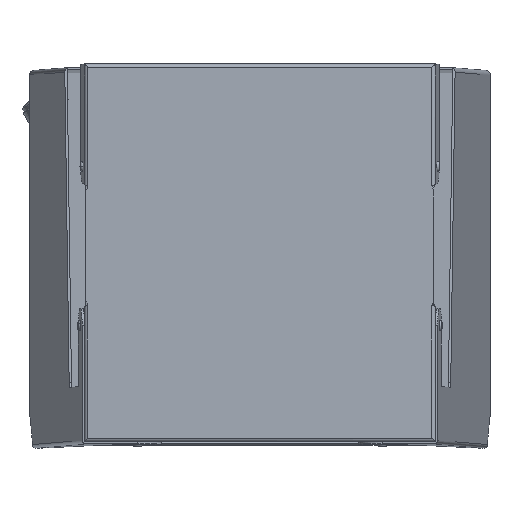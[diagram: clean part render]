
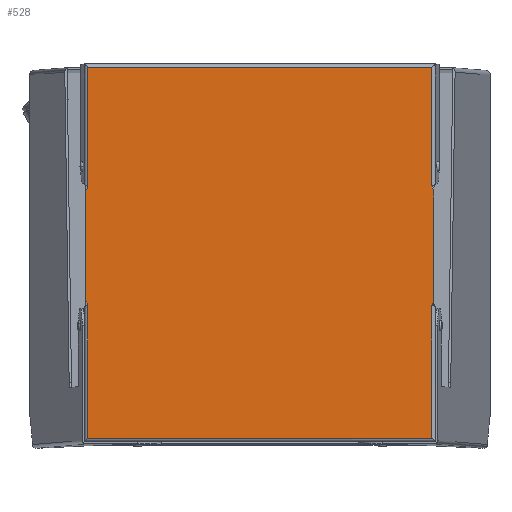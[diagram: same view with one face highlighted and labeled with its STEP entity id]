
A CAD part, top view. The second image highlights one B-rep face of the part: STEP entity #528.
In plain terms, the highlighted planar face has unit normal (0, 0.007, 1) as drawn and (0, 1, 0) by its records, which use the part's own axes.
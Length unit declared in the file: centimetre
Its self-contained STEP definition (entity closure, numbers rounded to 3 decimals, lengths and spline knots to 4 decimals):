
#528=ADVANCED_FACE('',(#907),#6311,.T.);
#907=FACE_OUTER_BOUND('',#1324,.T.);
#1324=EDGE_LOOP('',(#2773,#2774,#2775,#2776,#2777,#2778,#2779,#2780,#2781,
#2782,#2783,#2784));
#2773=ORIENTED_EDGE('',*,*,#4177,.F.);
#2774=ORIENTED_EDGE('',*,*,#4178,.F.);
#2775=ORIENTED_EDGE('',*,*,#4179,.F.);
#2776=ORIENTED_EDGE('',*,*,#4180,.F.);
#2777=ORIENTED_EDGE('',*,*,#4181,.F.);
#2778=ORIENTED_EDGE('',*,*,#4182,.F.);
#2779=ORIENTED_EDGE('',*,*,#4183,.F.);
#2780=ORIENTED_EDGE('',*,*,#4184,.F.);
#2781=ORIENTED_EDGE('',*,*,#4185,.F.);
#2782=ORIENTED_EDGE('',*,*,#4186,.F.);
#2783=ORIENTED_EDGE('',*,*,#4187,.F.);
#2784=ORIENTED_EDGE('',*,*,#4176,.F.);
#4176=EDGE_CURVE('',#5985,#5986,#4905,.T.);
#4177=EDGE_CURVE('',#5987,#5985,#4906,.T.);
#4178=EDGE_CURVE('',#5988,#5987,#4907,.T.);
#4179=EDGE_CURVE('',#5989,#5988,#4908,.T.);
#4180=EDGE_CURVE('',#5990,#5989,#4909,.T.);
#4181=EDGE_CURVE('',#5991,#5990,#4910,.T.);
#4182=EDGE_CURVE('',#5992,#5991,#4911,.T.);
#4183=EDGE_CURVE('',#5993,#5992,#4912,.T.);
#4184=EDGE_CURVE('',#5994,#5993,#4913,.T.);
#4185=EDGE_CURVE('',#5995,#5994,#4914,.T.);
#4186=EDGE_CURVE('',#5996,#5995,#4915,.T.);
#4187=EDGE_CURVE('',#5986,#5996,#4916,.T.);
#4905=B_SPLINE_CURVE_WITH_KNOTS('',1,(#12578,#12579),.UNSPECIFIED.,.F.,
 .F.,(2,2),(0.,11.3688),.UNSPECIFIED.);
#4906=B_SPLINE_CURVE_WITH_KNOTS('',1,(#12580,#12581),.UNSPECIFIED.,.F.,
 .F.,(2,2),(-29.6097,0.),.UNSPECIFIED.);
#4907=B_SPLINE_CURVE_WITH_KNOTS('',1,(#12582,#12583),.UNSPECIFIED.,.F.,
 .F.,(2,2),(-11.3688,0.),.UNSPECIFIED.);
#4908=B_SPLINE_CURVE_WITH_KNOTS('',3,(#12584,#12585,#12586,#12587,#12588,
#12589,#12590,#12591,#12592,#12593,#12594,#12595),.UNSPECIFIED.,.F.,.F.,
(4,2,2,2,2,4),(-0.005,-0.0038,-0.0025,
-0.0019,-0.0013,0.),
 .UNSPECIFIED.);
#4909=B_SPLINE_CURVE_WITH_KNOTS('',1,(#12596,#12597),.UNSPECIFIED.,.F.,
 .F.,(2,2),(0.,9.4341),.UNSPECIFIED.);
#4910=B_SPLINE_CURVE_WITH_KNOTS('',3,(#12598,#12599,#12600,#12601,#12602,
#12603,#12604,#12605,#12606,#12607),.UNSPECIFIED.,.F.,.F.,(4,2,2,2,4),(-0.0077,
-0.0064,-0.0052,-0.0039,-0.0026),
 .UNSPECIFIED.);
#4911=B_SPLINE_CURVE_WITH_KNOTS('',1,(#12608,#12609),.UNSPECIFIED.,.F.,
 .F.,(2,2),(-10.1688,0.),.UNSPECIFIED.);
#4912=B_SPLINE_CURVE_WITH_KNOTS('',1,(#12610,#12611),.UNSPECIFIED.,.F.,
 .F.,(2,2),(-29.6097,0.),.UNSPECIFIED.);
#4913=B_SPLINE_CURVE_WITH_KNOTS('',1,(#12612,#12613),.UNSPECIFIED.,.F.,
 .F.,(2,2),(0.,10.1688),.UNSPECIFIED.);
#4914=B_SPLINE_CURVE_WITH_KNOTS('',3,(#12614,#12615,#12616,#12617,#12618,
#12619,#12620,#12621,#12622,#12623),.UNSPECIFIED.,.F.,.F.,(4,2,2,2,4),(0.0026,
0.0039,0.0052,0.0064,0.0077),
 .UNSPECIFIED.);
#4915=B_SPLINE_CURVE_WITH_KNOTS('',1,(#12624,#12625),.UNSPECIFIED.,.F.,
 .F.,(2,2),(-9.4341,0.),.UNSPECIFIED.);
#4916=B_SPLINE_CURVE_WITH_KNOTS('',3,(#12626,#12627,#12628,#12629,#12630,
#12631,#12632,#12633,#12634,#12635,#12636,#12637),.UNSPECIFIED.,.F.,.F.,
(4,2,2,2,2,4),(0.,0.0013,0.0019,
0.0025,0.0038,0.005),
 .UNSPECIFIED.);
#5985=VERTEX_POINT('',#12338);
#5986=VERTEX_POINT('',#12339);
#5987=VERTEX_POINT('',#12340);
#5988=VERTEX_POINT('',#12341);
#5989=VERTEX_POINT('',#12342);
#5990=VERTEX_POINT('',#12343);
#5991=VERTEX_POINT('',#12344);
#5992=VERTEX_POINT('',#12345);
#5993=VERTEX_POINT('',#12346);
#5994=VERTEX_POINT('',#12347);
#5995=VERTEX_POINT('',#12348);
#5996=VERTEX_POINT('',#12349);
#6311=PLANE('',#7033);
#7033=AXIS2_PLACEMENT_3D('',#12106,#7444,$);
#7444=DIRECTION('',(0.,1.,0.));
#12106=CARTESIAN_POINT('',(-17.9693,42.2385,-20.208));
#12338=CARTESIAN_POINT('',(14.8049,42.2385,-17.018));
#12339=CARTESIAN_POINT('',(14.8049,42.2385,-5.6492));
#12340=CARTESIAN_POINT('',(-14.8049,42.2385,-17.018));
#12341=CARTESIAN_POINT('',(-14.8049,42.2385,-5.6492));
#12342=CARTESIAN_POINT('',(-14.9744,42.2385,-5.1851));
#12343=CARTESIAN_POINT('',(-14.9744,42.2385,4.249));
#12344=CARTESIAN_POINT('',(-14.8049,42.2385,4.7131));
#12345=CARTESIAN_POINT('',(-14.8049,42.2385,14.882));
#12346=CARTESIAN_POINT('',(14.8049,42.2385,14.882));
#12347=CARTESIAN_POINT('',(14.8049,42.2385,4.7131));
#12348=CARTESIAN_POINT('',(14.9744,42.2385,4.249));
#12349=CARTESIAN_POINT('',(14.9744,42.2385,-5.1851));
#12578=CARTESIAN_POINT('',(14.8049,42.2385,-17.018));
#12579=CARTESIAN_POINT('',(14.8049,42.2385,-5.6492));
#12580=CARTESIAN_POINT('',(-14.8049,42.2385,-17.018));
#12581=CARTESIAN_POINT('',(14.8049,42.2385,-17.018));
#12582=CARTESIAN_POINT('',(-14.8049,42.2385,-5.6492));
#12583=CARTESIAN_POINT('',(-14.8049,42.2385,-17.018));
#12584=CARTESIAN_POINT('',(-14.9744,42.2385,-5.1851));
#12585=CARTESIAN_POINT('',(-14.9475,42.2385,-5.2172));
#12586=CARTESIAN_POINT('',(-14.923,42.2385,-5.2521));
#12587=CARTESIAN_POINT('',(-14.8811,42.2385,-5.3246));
#12588=CARTESIAN_POINT('',(-14.8634,42.2385,-5.3624));
#12589=CARTESIAN_POINT('',(-14.8417,42.2385,-5.4217));
#12590=CARTESIAN_POINT('',(-14.8352,42.2385,-5.442));
#12591=CARTESIAN_POINT('',(-14.8242,42.2385,-5.4826));
#12592=CARTESIAN_POINT('',(-14.8196,42.2385,-5.5031));
#12593=CARTESIAN_POINT('',(-14.8086,42.2385,-5.565));
#12594=CARTESIAN_POINT('',(-14.8049,42.2385,-5.6068));
#12595=CARTESIAN_POINT('',(-14.8049,42.2385,-5.6492));
#12596=CARTESIAN_POINT('',(-14.9744,42.2385,4.249));
#12597=CARTESIAN_POINT('',(-14.9744,42.2385,-5.1851));
#12598=CARTESIAN_POINT('',(-14.8049,42.2385,4.7131));
#12599=CARTESIAN_POINT('',(-14.8049,42.2385,4.6708));
#12600=CARTESIAN_POINT('',(-14.8086,42.2385,4.6289));
#12601=CARTESIAN_POINT('',(-14.8234,42.2385,4.5461));
#12602=CARTESIAN_POINT('',(-14.8346,42.2385,4.505));
#12603=CARTESIAN_POINT('',(-14.8634,42.2385,4.4264));
#12604=CARTESIAN_POINT('',(-14.8811,42.2385,4.3886));
#12605=CARTESIAN_POINT('',(-14.9231,42.2385,4.316));
#12606=CARTESIAN_POINT('',(-14.9476,42.2385,4.2811));
#12607=CARTESIAN_POINT('',(-14.9744,42.2385,4.249));
#12608=CARTESIAN_POINT('',(-14.8049,42.2385,14.882));
#12609=CARTESIAN_POINT('',(-14.8049,42.2385,4.7131));
#12610=CARTESIAN_POINT('',(14.8049,42.2385,14.882));
#12611=CARTESIAN_POINT('',(-14.8049,42.2385,14.882));
#12612=CARTESIAN_POINT('',(14.8049,42.2385,4.7131));
#12613=CARTESIAN_POINT('',(14.8049,42.2385,14.882));
#12614=CARTESIAN_POINT('',(14.9744,42.2385,4.249));
#12615=CARTESIAN_POINT('',(14.9476,42.2385,4.2811));
#12616=CARTESIAN_POINT('',(14.9231,42.2385,4.316));
#12617=CARTESIAN_POINT('',(14.8811,42.2385,4.3886));
#12618=CARTESIAN_POINT('',(14.8634,42.2385,4.4264));
#12619=CARTESIAN_POINT('',(14.8346,42.2385,4.505));
#12620=CARTESIAN_POINT('',(14.8234,42.2385,4.5461));
#12621=CARTESIAN_POINT('',(14.8086,42.2385,4.6289));
#12622=CARTESIAN_POINT('',(14.8049,42.2385,4.6708));
#12623=CARTESIAN_POINT('',(14.8049,42.2385,4.7131));
#12624=CARTESIAN_POINT('',(14.9744,42.2385,-5.1851));
#12625=CARTESIAN_POINT('',(14.9744,42.2385,4.249));
#12626=CARTESIAN_POINT('',(14.8049,42.2385,-5.6492));
#12627=CARTESIAN_POINT('',(14.8049,42.2385,-5.6068));
#12628=CARTESIAN_POINT('',(14.8086,42.2385,-5.565));
#12629=CARTESIAN_POINT('',(14.8196,42.2385,-5.5031));
#12630=CARTESIAN_POINT('',(14.8242,42.2385,-5.4826));
#12631=CARTESIAN_POINT('',(14.8352,42.2385,-5.442));
#12632=CARTESIAN_POINT('',(14.8417,42.2385,-5.4217));
#12633=CARTESIAN_POINT('',(14.8634,42.2385,-5.3624));
#12634=CARTESIAN_POINT('',(14.8811,42.2385,-5.3246));
#12635=CARTESIAN_POINT('',(14.923,42.2385,-5.2521));
#12636=CARTESIAN_POINT('',(14.9475,42.2385,-5.2172));
#12637=CARTESIAN_POINT('',(14.9744,42.2385,-5.1851));
